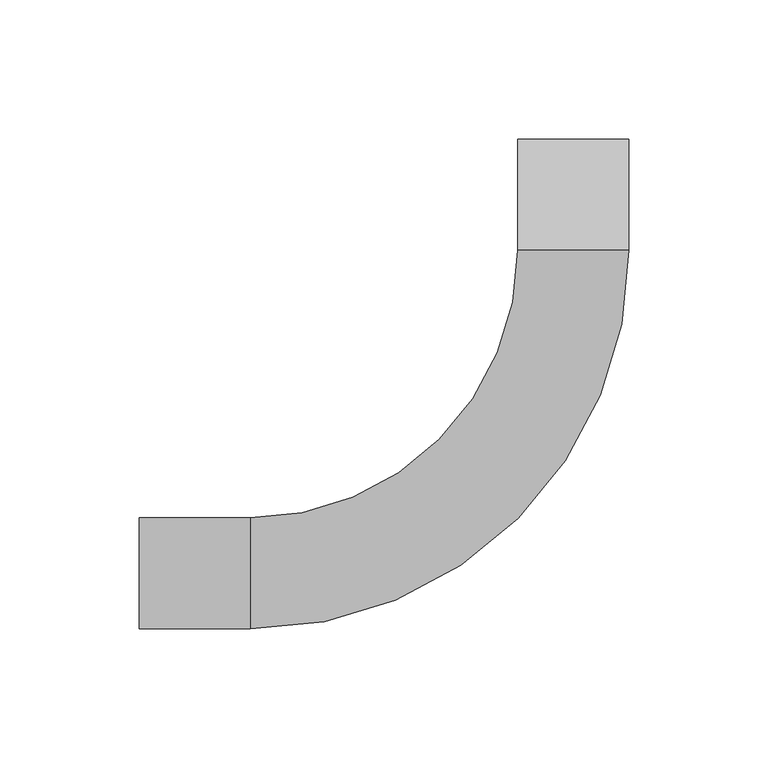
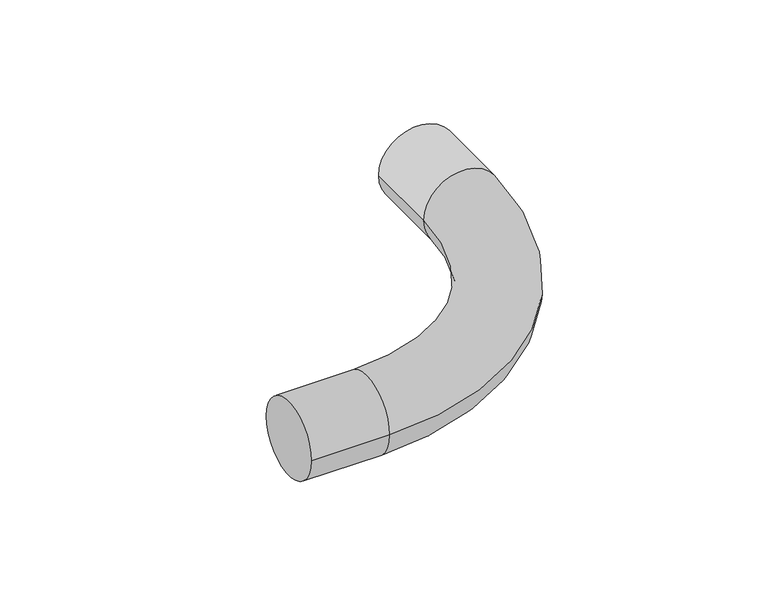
"""IFC4 building model written with IfcOpenShell, lengths in millimetres: cable carrier fitting geometry, Отвод Трубы гладкие жесткие ПВХ : Отвод Трубы гладкие жесткие ПВХ."""

from ifc_helpers import new_model, si_unit, point, frame, origin, place, context, project, spatial, circle_curve, ellipse_curve, trimmed, source, transform, mapped, element, save
from ifc_brep_helpers import plane_surface, cylinder_surface, revolved_surface, advanced_brep


def cable_carrier_fitting_d8a5bbfc(model_context):
    return source(origin(), model_context, "Body", "AdvancedBrep", [
        advanced_brep(
        [(-156.083, -19.9898, 0.0), (-156.083, 19.9898, 0.0), (-116.1034, -19.9898, 0.0), (-116.1034, 19.9898, 0.0), (-19.9898, 116.1034, 0.0), (19.9898, 116.1034, 0.0), (19.9898, 156.083, 0.0), (-19.9898, 156.083, 0.0)],
        [
            (0, 1, circle_curve(frame((-156.083, 0.0, 0.0), z_axis=(-1.0, 0.0, 0.0), x_axis=(0.0, 1.0, 0.0)), 19.9898)),
            (1, 0, circle_curve(frame((-156.083, 0.0, 0.0), z_axis=(-1.0, 0.0, 0.0), x_axis=(0.0, 1.0, 0.0)), 19.9898)),
            (0, 2),
            (2, 3, circle_curve(frame((-116.1034, 0.0, 0.0), z_axis=(-1.0, 0.0, 0.0), x_axis=(0.0, 1.0, 0.0)), 19.9898)),
            (3, 1),
            (3, 2, circle_curve(frame((-116.1034, 0.0, 0.0), z_axis=(-1.0, 0.0, 0.0), x_axis=(0.0, 1.0, 0.0)), 19.9898)),
            (4, 3, circle_curve(frame((-116.1034, 116.1034, 0.0), z_axis=(0.0, 0.0, -1.0), x_axis=(0.0, -1.0, 0.0)), 96.1136)),
            (2, 5, circle_curve(frame((-116.1034, 116.1034, 0.0), z_axis=(0.0, 0.0, 1.0), x_axis=(0.0, -1.0, 0.0)), 136.0932)),
            (5, 4, circle_curve(frame((0.0, 116.1034, 0.0), z_axis=(0.0, -1.0, 0.0), x_axis=(-1.0, 0.0, 0.0)), 19.9898)),
            (4, 5, circle_curve(frame((0.0, 116.1034, 0.0), z_axis=(0.0, -1.0, 0.0), x_axis=(-1.0, 0.0, 0.0)), 19.9898)),
            (6, 7, circle_curve(frame((0.0, 156.083, 0.0), z_axis=(0.0, 1.0, 0.0), x_axis=(-1.0, 0.0, 0.0)), 19.9898)),
            (7, 6, circle_curve(frame((0.0, 156.083, 0.0), z_axis=(0.0, 1.0, 0.0), x_axis=(-1.0, 0.0, 0.0)), 19.9898)),
            (5, 6),
            (7, 4),
        ],
        [
            plane_surface(frame((-156.083, 0.0, 0.0), z_axis=(-1.0, 0.0, 0.0), x_axis=(0.0, 0.0, 1.0))),
            cylinder_surface(frame((-156.083, 0.0, 0.0), z_axis=(-1.0, 0.0, 0.0), x_axis=(0.0, 1.0, 0.0)), 19.9898),
            revolved_surface(trimmed(ellipse_curve(frame((-116.1034, 0.0, 0.0), z_axis=(-1.0, 0.0, 0.0), x_axis=(0.0, 1.0, 0.0)), 19.9898, 19.9898), [point((-116.1034, -19.9898, 0.0))], [point((-116.1034, 19.9898, 0.0))], True, "CARTESIAN"), (-116.1034, 116.1034, 0.0), (0.0, 0.0, 1.0)),
            revolved_surface(trimmed(ellipse_curve(frame((-116.1034, 0.0, 0.0), z_axis=(-1.0, 0.0, 0.0), x_axis=(0.0, 1.0, 0.0)), 19.9898, 19.9898), [point((-116.1034, 19.9898, 0.0))], [point((-116.1034, -19.9898, 0.0))], True, "CARTESIAN"), (-116.1034, 116.1034, 0.0), (0.0, 0.0, 1.0)),
            plane_surface(frame((0.0, 156.083, 0.0), z_axis=(0.0, 1.0, 0.0), x_axis=(0.0, 0.0, 1.0))),
            cylinder_surface(frame((0.0, 116.1034, 0.0), z_axis=(0.0, -1.0, 0.0), x_axis=(-1.0, 0.0, 0.0)), 19.9898),
        ],
        [
            (0, [[1, 2]]),
            (1, [[-1, 3, 4, 5]]),
            (1, [[-2, -5, 6, -3]]),
            (2, [[7, -4, 8, 9]]),
            (3, [[-8, -6, -7, 10]]),
            (4, [[11, 12]]),
            (5, [[-9, 13, -12, 14]]),
            (5, [[-10, -14, -11, -13]]),
        ],
    ),
    ])


if __name__ == "__main__":
    model = new_model("IFC4")
    model_context = context("Model", 3, world=origin())
    ifc_project = project(units=[si_unit("LENGTHUNIT", "METRE", prefix="MILLI")], contexts=[model_context])
    site = spatial("IfcSite", under=ifc_project)
    building = spatial("IfcBuilding", under=site)
    placement = place(None, origin())
    cable_carrier_fitting_shape = cable_carrier_fitting_d8a5bbfc(model_context)
    element("IfcCableCarrierFitting", 1, ObjectType="Отвод Трубы гладкие жесткие ПВХ : Отвод Трубы гладкие жесткие ПВХ", at=placement, inside=building, context=model_context, shape_type="MappedRepresentation", body=[
        mapped(cable_carrier_fitting_shape, transform((0.0, 0.0, 0.0), x_axis=(1.0, 0.0, 0.0), y_axis=(0.0, 1.0, 0.0), z_axis=(0.0, 0.0, 1.0))),
    ])
    save(model, "model.ifc")
